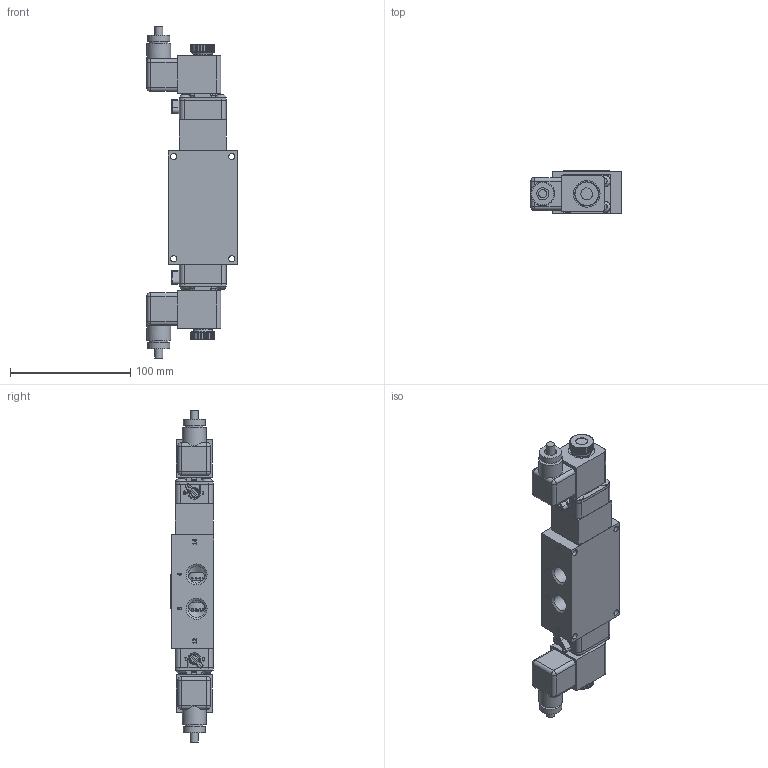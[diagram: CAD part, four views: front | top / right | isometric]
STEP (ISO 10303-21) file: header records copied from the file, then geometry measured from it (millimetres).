
FILE_DESCRIPTION(/* description */ (''),/* implementation_level */ '2;1');
FILE_NAME(/* name */ 'D:\Engineering\Product\valves\Assembly\standard\ESS\stp\ESS3TOLQ.stp',/* time_stamp */ '2022-06-22T09:08:45-04:00',/* author */ ('RMcKenna'),/* organization */ (''),/* preprocessor_version */ 'ST-DEVELOPER v18.1',/* originating_system */ 'Autodesk Inventor 2021',/* authorisation */ '');
FILE_SCHEMA (('AUTOMOTIVE_DESIGN { 1 0 10303 214 3 1 1 }'));
Products named in the file (1): Part121
Bounding box: 75.06 x 36.27 x 276.04 mm (x, y, z)
Volume: 334511.8 mm3; surface area: 104066.9 mm2
Topology: 5 solids, 44 shells, 2492 faces, 6205 edges, 3971 vertices
Faces by surface type: plane 1250, cylinder 686, cone 253, torus 145, bspline 140, sphere 18
Full cylindrical faces by diameter (mm): 1.3 x2, 1.397 x2, 1.5 x2, 2.032 x16, 2.07 x2, 2.261 x2, 2.35 x8, 2.5 x2, 2.778 x2, 2.8 x2, 3 x8, 3.048 x3, 3.175 x1, 3.4 x2, 3.683 x12, 3.912 x3, 4.191 x4, 4.394 x1, 4.826 x8, 4.978 x2, 5.15 x8, 5.156 x16, 5.159 x4, 5.5 x2, 6.65 x2, 6.731 x2, 7.315 x2, 7.9 x2, 8 x4, 8.128 x2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
Entity records: 82234 total; most frequent: CARTESIAN_POINT 20547, ORIENTED_EDGE 12360, DIRECTION 12084, EDGE_CURVE 6180, AXIS2_PLACEMENT_3D 4400, VERTEX_POINT 3971, LINE 3284, VECTOR 3284
